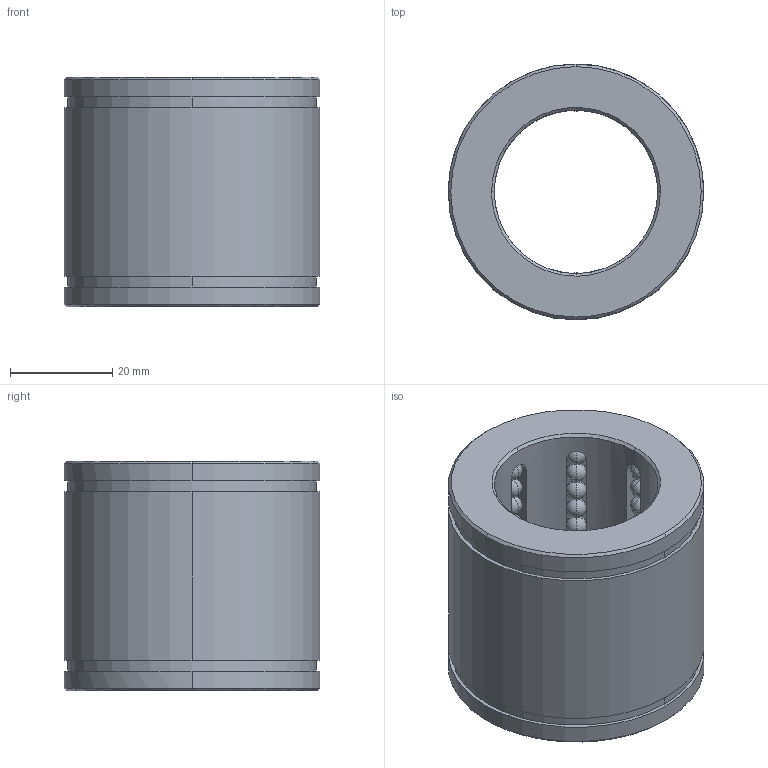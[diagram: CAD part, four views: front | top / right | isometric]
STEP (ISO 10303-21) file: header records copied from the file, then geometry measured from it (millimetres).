
FILE_DESCRIPTION(('CATIA V5 STEP Exchange'),'2;1');
FILE_NAME('C:\Users\Raffaele\Desktop\3D BOLEX\3D FILES CF BOLEX\3-BUSH REF 803\B8033245.stp','2019-06-19T14:07:36+00:00',('none'),('none'),'CATIA Version 5 Release 20 GA (IN-10)','CATIA V5 STEP AP203','none');
FILE_SCHEMA(('CONFIG_CONTROL_DESIGN'));
Length unit declared in the file: millimetre
Products named in the file (1): B8033245
Bounding box: 50 x 50 x 45 mm (x, y, z)
Volume: 49434.8 mm3; surface area: 20347.3 mm2
Topology: 73 solids, 73 shells, 362 faces, 1042 edges, 260 vertices
Faces by surface type: sphere 288, plane 30, cylinder 28, cone 16
Entity records: 7280 total; most frequent: CARTESIAN_POINT 1561, DIRECTION 1146, ORIENTED_EDGE 932, AXIS2_PLACEMENT_3D 691, EDGE_CURVE 466, EDGE_LOOP 374, ADVANCED_FACE 362, FACE_OUTER_BOUND 362
